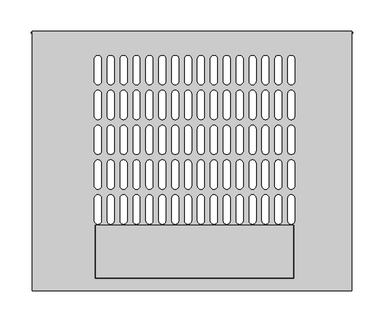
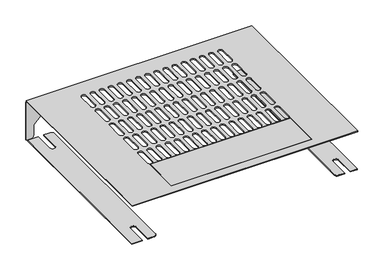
"""IFC4 building model written with IfcOpenShell, lengths in millimetres: proxy geometry, TRF2 - 480V-208Vor 120V_ Step_down_transformer_BIM_Model : TRF2 - 480V-208Vor 120V_ Step_down_transformer_BIM_Model."""

from ifc_helpers import new_model, si_unit, point, frame, frame_2d, origin, origin_with_axes, place, context, project, spatial, polyline, circle_curve, trimmed, segment, composite_curve, outline, extrude, source, transform, mapped, element, save


def electrical_equipment_92dd933f(model_context):
    return source(origin(), model_context, "Body", "SweptSolid", [
        extrude(outline(polyline([(254.8, -198.6272785), (-254.8, -198.6272785), (-254.8, 215.1506986), (254.8, 215.1506986), (254.8, -198.6272785)]), holes=[polyline([(162.4150005, -178.550515), (162.4150005, -94.15061), (-154.465488, -94.15061), (-154.465488, -178.550515), (162.4150005, -178.550515)]), composite_curve([segment(polyline([(-155.818178, -51.220315), (-155.818178, -86.932715)]), True, "CONTINUOUS"), segment(trimmed(circle_curve(frame_2d((-150.268278, -86.932715)), 5.5499), [point((-155.818178, -86.932715))], [point((-144.718378, -86.932715))], True, "CARTESIAN"), True, "CONTINUOUS"), segment(polyline([(-144.718378, -86.932715), (-144.718378, -51.220315)]), True, "CONTINUOUS"), segment(trimmed(circle_curve(frame_2d((-150.268278, -51.220315)), 5.5499), [point((-144.718378, -51.220315))], [point((-155.818178, -51.220315))], True, "CARTESIAN"), True, "CONTINUOUS")], self_intersect=False), composite_curve([segment(polyline([(-155.818178, 4.342185), (-155.818178, -31.370215)]), True, "CONTINUOUS"), segment(trimmed(circle_curve(frame_2d((-150.268278, -31.370215)), 5.5499), [point((-155.818178, -31.370215))], [point((-144.718378, -31.370215))], True, "CARTESIAN"), True, "CONTINUOUS"), segment(polyline([(-144.718378, -31.370215), (-144.718378, 4.342185)]), True, "CONTINUOUS"), segment(trimmed(circle_curve(frame_2d((-150.268278, 4.342185)), 5.5499), [point((-144.718378, 4.342185))], [point((-155.818178, 4.342185))], True, "CARTESIAN"), True, "CONTINUOUS")], self_intersect=False), composite_curve([segment(polyline([(-155.818178, 59.904685), (-155.818178, 24.192285)]), True, "CONTINUOUS"), segment(trimmed(circle_curve(frame_2d((-150.268278, 24.192285)), 5.5499), [point((-155.818178, 24.192285))], [point((-144.718378, 24.192285))], True, "CARTESIAN"), True, "CONTINUOUS"), segment(polyline([(-144.718378, 24.192285), (-144.718378, 59.904685)]), True, "CONTINUOUS"), segment(trimmed(circle_curve(frame_2d((-150.268278, 59.904685)), 5.5499), [point((-144.718378, 59.904685))], [point((-155.818178, 59.904685))], True, "CARTESIAN"), True, "CONTINUOUS")], self_intersect=False), composite_curve([segment(polyline([(-155.818178, 115.467185), (-155.818178, 79.754785)]), True, "CONTINUOUS"), segment(trimmed(circle_curve(frame_2d((-150.268278, 79.754785)), 5.5499), [point((-155.818178, 79.754785))], [point((-144.718378, 79.754785))], True, "CARTESIAN"), True, "CONTINUOUS"), segment(polyline([(-144.718378, 79.754785), (-144.718378, 115.467185)]), True, "CONTINUOUS"), segment(trimmed(circle_curve(frame_2d((-150.268278, 115.467185)), 5.5499), [point((-144.718378, 115.467185))], [point((-155.818178, 115.467185))], True, "CARTESIAN"), True, "CONTINUOUS")], self_intersect=False), composite_curve([segment(polyline([(-155.818178, 171.029685), (-155.818178, 135.317285)]), True, "CONTINUOUS"), segment(trimmed(circle_curve(frame_2d((-150.268278, 135.317285)), 5.5499), [point((-155.818178, 135.317285))], [point((-144.718378, 135.317285))], True, "CARTESIAN"), True, "CONTINUOUS"), segment(polyline([(-144.718378, 135.317285), (-144.718378, 171.029685)]), True, "CONTINUOUS"), segment(trimmed(circle_curve(frame_2d((-150.268278, 171.029685)), 5.5499), [point((-144.718378, 171.029685))], [point((-155.818178, 171.029685))], True, "CARTESIAN"), True, "CONTINUOUS")], self_intersect=False), composite_curve([segment(polyline([(-135.244178, -51.220315), (-135.244178, -86.932715)]), True, "CONTINUOUS"), segment(trimmed(circle_curve(frame_2d((-129.694278, -86.932715)), 5.5499), [point((-135.244178, -86.932715))], [point((-124.144378, -86.932715))], True, "CARTESIAN"), True, "CONTINUOUS"), segment(polyline([(-124.144378, -86.932715), (-124.144378, -51.220315)]), True, "CONTINUOUS"), segment(trimmed(circle_curve(frame_2d((-129.694278, -51.220315)), 5.5499), [point((-124.144378, -51.220315))], [point((-135.244178, -51.220315))], True, "CARTESIAN"), True, "CONTINUOUS")], self_intersect=False), composite_curve([segment(polyline([(-135.244178, 4.342185), (-135.244178, -31.370215)]), True, "CONTINUOUS"), segment(trimmed(circle_curve(frame_2d((-129.694278, -31.370215)), 5.5499), [point((-135.244178, -31.370215))], [point((-124.144378, -31.370215))], True, "CARTESIAN"), True, "CONTINUOUS"), segment(polyline([(-124.144378, -31.370215), (-124.144378, 4.342185)]), True, "CONTINUOUS"), segment(trimmed(circle_curve(frame_2d((-129.694278, 4.342185)), 5.5499), [point((-124.144378, 4.342185))], [point((-135.244178, 4.342185))], True, "CARTESIAN"), True, "CONTINUOUS")], self_intersect=False), composite_curve([segment(polyline([(-135.244178, 59.904685), (-135.244178, 24.192285)]), True, "CONTINUOUS"), segment(trimmed(circle_curve(frame_2d((-129.694278, 24.192285)), 5.5499), [point((-135.244178, 24.192285))], [point((-124.144378, 24.192285))], True, "CARTESIAN"), True, "CONTINUOUS"), segment(polyline([(-124.144378, 24.192285), (-124.144378, 59.904685)]), True, "CONTINUOUS"), segment(trimmed(circle_curve(frame_2d((-129.694278, 59.904685)), 5.5499), [point((-124.144378, 59.904685))], [point((-135.244178, 59.904685))], True, "CARTESIAN"), True, "CONTINUOUS")], self_intersect=False), composite_curve([segment(polyline([(-135.244178, 115.467185), (-135.244178, 79.754785)]), True, "CONTINUOUS"), segment(trimmed(circle_curve(frame_2d((-129.694278, 79.754785)), 5.5499), [point((-135.244178, 79.754785))], [point((-124.144378, 79.754785))], True, "CARTESIAN"), True, "CONTINUOUS"), segment(polyline([(-124.144378, 79.754785), (-124.144378, 115.467185)]), True, "CONTINUOUS"), segment(trimmed(circle_curve(frame_2d((-129.694278, 115.467185)), 5.5499), [point((-124.144378, 115.467185))], [point((-135.244178, 115.467185))], True, "CARTESIAN"), True, "CONTINUOUS")], self_intersect=False), composite_curve([segment(polyline([(-135.244178, 171.029685), (-135.244178, 135.317285)]), True, "CONTINUOUS"), segment(trimmed(circle_curve(frame_2d((-129.694278, 135.317285)), 5.5499), [point((-135.244178, 135.317285))], [point((-124.144378, 135.317285))], True, "CARTESIAN"), True, "CONTINUOUS"), segment(polyline([(-124.144378, 135.317285), (-124.144378, 171.029685)]), True, "CONTINUOUS"), segment(trimmed(circle_curve(frame_2d((-129.694278, 171.029685)), 5.5499), [point((-124.144378, 171.029685))], [point((-135.244178, 171.029685))], True, "CARTESIAN"), True, "CONTINUOUS")], self_intersect=False), composite_curve([segment(polyline([(-114.670178, -51.220315), (-114.670178, -86.932715)]), True, "CONTINUOUS"), segment(trimmed(circle_curve(frame_2d((-109.120278, -86.932715)), 5.5499), [point((-114.670178, -86.932715))], [point((-103.570378, -86.932715))], True, "CARTESIAN"), True, "CONTINUOUS"), segment(polyline([(-103.570378, -86.932715), (-103.570378, -51.220315)]), True, "CONTINUOUS"), segment(trimmed(circle_curve(frame_2d((-109.120278, -51.220315)), 5.5499), [point((-103.570378, -51.220315))], [point((-114.670178, -51.220315))], True, "CARTESIAN"), True, "CONTINUOUS")], self_intersect=False), composite_curve([segment(polyline([(-114.670178, 4.342185), (-114.670178, -31.370215)]), True, "CONTINUOUS"), segment(trimmed(circle_curve(frame_2d((-109.120278, -31.370215)), 5.5499), [point((-114.670178, -31.370215))], [point((-103.570378, -31.370215))], True, "CARTESIAN"), True, "CONTINUOUS"), segment(polyline([(-103.570378, -31.370215), (-103.570378, 4.342185)]), True, "CONTINUOUS"), segment(trimmed(circle_curve(frame_2d((-109.120278, 4.342185)), 5.5499), [point((-103.570378, 4.342185))], [point((-114.670178, 4.342185))], True, "CARTESIAN"), True, "CONTINUOUS")], self_intersect=False), composite_curve([segment(polyline([(-114.670178, 59.904685), (-114.670178, 24.192285)]), True, "CONTINUOUS"), segment(trimmed(circle_curve(frame_2d((-109.120278, 24.192285)), 5.5499), [point((-114.670178, 24.192285))], [point((-103.570378, 24.192285))], True, "CARTESIAN"), True, "CONTINUOUS"), segment(polyline([(-103.570378, 24.192285), (-103.570378, 59.904685)]), True, "CONTINUOUS"), segment(trimmed(circle_curve(frame_2d((-109.120278, 59.904685)), 5.5499), [point((-103.570378, 59.904685))], [point((-114.670178, 59.904685))], True, "CARTESIAN"), True, "CONTINUOUS")], self_intersect=False), composite_curve([segment(polyline([(-114.670178, 115.467185), (-114.670178, 79.754785)]), True, "CONTINUOUS"), segment(trimmed(circle_curve(frame_2d((-109.120278, 79.754785)), 5.5499), [point((-114.670178, 79.754785))], [point((-103.570378, 79.754785))], True, "CARTESIAN"), True, "CONTINUOUS"), segment(polyline([(-103.570378, 79.754785), (-103.570378, 115.467185)]), True, "CONTINUOUS"), segment(trimmed(circle_curve(frame_2d((-109.120278, 115.467185)), 5.5499), [point((-103.570378, 115.467185))], [point((-114.670178, 115.467185))], True, "CARTESIAN"), True, "CONTINUOUS")], self_intersect=False), composite_curve([segment(polyline([(-114.670178, 171.029685), (-114.670178, 135.317285)]), True, "CONTINUOUS"), segment(trimmed(circle_curve(frame_2d((-109.120278, 135.317285)), 5.5499), [point((-114.670178, 135.317285))], [point((-103.570378, 135.317285))], True, "CARTESIAN"), True, "CONTINUOUS"), segment(polyline([(-103.570378, 135.317285), (-103.570378, 171.029685)]), True, "CONTINUOUS"), segment(trimmed(circle_curve(frame_2d((-109.120278, 171.029685)), 5.5499), [point((-103.570378, 171.029685))], [point((-114.670178, 171.029685))], True, "CARTESIAN"), True, "CONTINUOUS")], self_intersect=False), composite_curve([segment(polyline([(-94.096178, -51.220315), (-94.096178, -86.932715)]), True, "CONTINUOUS"), segment(trimmed(circle_curve(frame_2d((-88.546278, -86.932715)), 5.5499), [point((-94.096178, -86.932715))], [point((-82.996378, -86.932715))], True, "CARTESIAN"), True, "CONTINUOUS"), segment(polyline([(-82.996378, -86.932715), (-82.996378, -51.220315)]), True, "CONTINUOUS"), segment(trimmed(circle_curve(frame_2d((-88.546278, -51.220315)), 5.5499), [point((-82.996378, -51.220315))], [point((-94.096178, -51.220315))], True, "CARTESIAN"), True, "CONTINUOUS")], self_intersect=False), composite_curve([segment(polyline([(-94.096178, 4.342185), (-94.096178, -31.370215)]), True, "CONTINUOUS"), segment(trimmed(circle_curve(frame_2d((-88.546278, -31.370215)), 5.5499), [point((-94.096178, -31.370215))], [point((-82.996378, -31.370215))], True, "CARTESIAN"), True, "CONTINUOUS"), segment(polyline([(-82.996378, -31.370215), (-82.996378, 4.342185)]), True, "CONTINUOUS"), segment(trimmed(circle_curve(frame_2d((-88.546278, 4.342185)), 5.5499), [point((-82.996378, 4.342185))], [point((-94.096178, 4.342185))], True, "CARTESIAN"), True, "CONTINUOUS")], self_intersect=False), composite_curve([segment(polyline([(-94.096178, 59.904685), (-94.096178, 24.192285)]), True, "CONTINUOUS"), segment(trimmed(circle_curve(frame_2d((-88.546278, 24.192285)), 5.5499), [point((-94.096178, 24.192285))], [point((-82.996378, 24.192285))], True, "CARTESIAN"), True, "CONTINUOUS"), segment(polyline([(-82.996378, 24.192285), (-82.996378, 59.904685)]), True, "CONTINUOUS"), segment(trimmed(circle_curve(frame_2d((-88.546278, 59.904685)), 5.5499), [point((-82.996378, 59.904685))], [point((-94.096178, 59.904685))], True, "CARTESIAN"), True, "CONTINUOUS")], self_intersect=False), composite_curve([segment(polyline([(-94.096178, 115.467185), (-94.096178, 79.754785)]), True, "CONTINUOUS"), segment(trimmed(circle_curve(frame_2d((-88.546278, 79.754785)), 5.5499), [point((-94.096178, 79.754785))], [point((-82.996378, 79.754785))], True, "CARTESIAN"), True, "CONTINUOUS"), segment(polyline([(-82.996378, 79.754785), (-82.996378, 115.467185)]), True, "CONTINUOUS"), segment(trimmed(circle_curve(frame_2d((-88.546278, 115.467185)), 5.5499), [point((-82.996378, 115.467185))], [point((-94.096178, 115.467185))], True, "CARTESIAN"), True, "CONTINUOUS")], self_intersect=False), composite_curve([segment(polyline([(-94.096178, 171.029685), (-94.096178, 135.317285)]), True, "CONTINUOUS"), segment(trimmed(circle_curve(frame_2d((-88.546278, 135.317285)), 5.5499), [point((-94.096178, 135.317285))], [point((-82.996378, 135.317285))], True, "CARTESIAN"), True, "CONTINUOUS"), segment(polyline([(-82.996378, 135.317285), (-82.996378, 171.029685)]), True, "CONTINUOUS"), segment(trimmed(circle_curve(frame_2d((-88.546278, 171.029685)), 5.5499), [point((-82.996378, 171.029685))], [point((-94.096178, 171.029685))], True, "CARTESIAN"), True, "CONTINUOUS")], self_intersect=False), composite_curve([segment(polyline([(-73.522178, -51.220315), (-73.522178, -86.932715)]), True, "CONTINUOUS"), segment(trimmed(circle_curve(frame_2d((-67.972278, -86.932715)), 5.5499), [point((-73.522178, -86.932715))], [point((-62.422378, -86.932715))], True, "CARTESIAN"), True, "CONTINUOUS"), segment(polyline([(-62.422378, -86.932715), (-62.422378, -51.220315)]), True, "CONTINUOUS"), segment(trimmed(circle_curve(frame_2d((-67.972278, -51.220315)), 5.5499), [point((-62.422378, -51.220315))], [point((-73.522178, -51.220315))], True, "CARTESIAN"), True, "CONTINUOUS")], self_intersect=False), composite_curve([segment(polyline([(-73.522178, 4.342185), (-73.522178, -31.370215)]), True, "CONTINUOUS"), segment(trimmed(circle_curve(frame_2d((-67.972278, -31.370215)), 5.5499), [point((-73.522178, -31.370215))], [point((-62.422378, -31.370215))], True, "CARTESIAN"), True, "CONTINUOUS"), segment(polyline([(-62.422378, -31.370215), (-62.422378, 4.342185)]), True, "CONTINUOUS"), segment(trimmed(circle_curve(frame_2d((-67.972278, 4.342185)), 5.5499), [point((-62.422378, 4.342185))], [point((-73.522178, 4.342185))], True, "CARTESIAN"), True, "CONTINUOUS")], self_intersect=False), composite_curve([segment(polyline([(-73.522178, 59.904685), (-73.522178, 24.192285)]), True, "CONTINUOUS"), segment(trimmed(circle_curve(frame_2d((-67.972278, 24.192285)), 5.5499), [point((-73.522178, 24.192285))], [point((-62.422378, 24.192285))], True, "CARTESIAN"), True, "CONTINUOUS"), segment(polyline([(-62.422378, 24.192285), (-62.422378, 59.904685)]), True, "CONTINUOUS"), segment(trimmed(circle_curve(frame_2d((-67.972278, 59.904685)), 5.5499), [point((-62.422378, 59.904685))], [point((-73.522178, 59.904685))], True, "CARTESIAN"), True, "CONTINUOUS")], self_intersect=False), composite_curve([segment(polyline([(-73.522178, 115.467185), (-73.522178, 79.754785)]), True, "CONTINUOUS"), segment(trimmed(circle_curve(frame_2d((-67.972278, 79.754785)), 5.5499), [point((-73.522178, 79.754785))], [point((-62.422378, 79.754785))], True, "CARTESIAN"), True, "CONTINUOUS"), segment(polyline([(-62.422378, 79.754785), (-62.422378, 115.467185)]), True, "CONTINUOUS"), segment(trimmed(circle_curve(frame_2d((-67.972278, 115.467185)), 5.5499), [point((-62.422378, 115.467185))], [point((-73.522178, 115.467185))], True, "CARTESIAN"), True, "CONTINUOUS")], self_intersect=False), composite_curve([segment(polyline([(-73.522178, 171.029685), (-73.522178, 135.317285)]), True, "CONTINUOUS"), segment(trimmed(circle_curve(frame_2d((-67.972278, 135.317285)), 5.5499), [point((-73.522178, 135.317285))], [point((-62.422378, 135.317285))], True, "CARTESIAN"), True, "CONTINUOUS"), segment(polyline([(-62.422378, 135.317285), (-62.422378, 171.029685)]), True, "CONTINUOUS"), segment(trimmed(circle_curve(frame_2d((-67.972278, 171.029685)), 5.5499), [point((-62.422378, 171.029685))], [point((-73.522178, 171.029685))], True, "CARTESIAN"), True, "CONTINUOUS")], self_intersect=False), composite_curve([segment(polyline([(-52.948178, -51.220315), (-52.948178, -86.932715)]), True, "CONTINUOUS"), segment(trimmed(circle_curve(frame_2d((-47.398278, -86.932715)), 5.5499), [point((-52.948178, -86.932715))], [point((-41.848378, -86.932715))], True, "CARTESIAN"), True, "CONTINUOUS"), segment(polyline([(-41.848378, -86.932715), (-41.848378, -51.220315)]), True, "CONTINUOUS"), segment(trimmed(circle_curve(frame_2d((-47.398278, -51.220315)), 5.5499), [point((-41.848378, -51.220315))], [point((-52.948178, -51.220315))], True, "CARTESIAN"), True, "CONTINUOUS")], self_intersect=False), composite_curve([segment(polyline([(-52.948178, 4.342185), (-52.948178, -31.370215)]), True, "CONTINUOUS"), segment(trimmed(circle_curve(frame_2d((-47.398278, -31.370215)), 5.5499), [point((-52.948178, -31.370215))], [point((-41.848378, -31.370215))], True, "CARTESIAN"), True, "CONTINUOUS"), segment(polyline([(-41.848378, -31.370215), (-41.848378, 4.342185)]), True, "CONTINUOUS"), segment(trimmed(circle_curve(frame_2d((-47.398278, 4.342185)), 5.5499), [point((-41.848378, 4.342185))], [point((-52.948178, 4.342185))], True, "CARTESIAN"), True, "CONTINUOUS")], self_intersect=False), composite_curve([segment(polyline([(-52.948178, 59.904685), (-52.948178, 24.192285)]), True, "CONTINUOUS"), segment(trimmed(circle_curve(frame_2d((-47.398278, 24.192285)), 5.5499), [point((-52.948178, 24.192285))], [point((-41.848378, 24.192285))], True, "CARTESIAN"), True, "CONTINUOUS"), segment(polyline([(-41.848378, 24.192285), (-41.848378, 59.904685)]), True, "CONTINUOUS"), segment(trimmed(circle_curve(frame_2d((-47.398278, 59.904685)), 5.5499), [point((-41.848378, 59.904685))], [point((-52.948178, 59.904685))], True, "CARTESIAN"), True, "CONTINUOUS")], self_intersect=False), composite_curve([segment(polyline([(-52.948178, 115.467185), (-52.948178, 79.754785)]), True, "CONTINUOUS"), segment(trimmed(circle_curve(frame_2d((-47.398278, 79.754785)), 5.5499), [point((-52.948178, 79.754785))], [point((-41.848378, 79.754785))], True, "CARTESIAN"), True, "CONTINUOUS"), segment(polyline([(-41.848378, 79.754785), (-41.848378, 115.467185)]), True, "CONTINUOUS"), segment(trimmed(circle_curve(frame_2d((-47.398278, 115.467185)), 5.5499), [point((-41.848378, 115.467185))], [point((-52.948178, 115.467185))], True, "CARTESIAN"), True, "CONTINUOUS")], self_intersect=False), composite_curve([segment(polyline([(-52.948178, 171.029685), (-52.948178, 135.317285)]), True, "CONTINUOUS"), segment(trimmed(circle_curve(frame_2d((-47.398278, 135.317285)), 5.5499), [point((-52.948178, 135.317285))], [point((-41.848378, 135.317285))], True, "CARTESIAN"), True, "CONTINUOUS"), segment(polyline([(-41.848378, 135.317285), (-41.848378, 171.029685)]), True, "CONTINUOUS"), segment(trimmed(circle_curve(frame_2d((-47.398278, 171.029685)), 5.5499), [point((-41.848378, 171.029685))], [point((-52.948178, 171.029685))], True, "CARTESIAN"), True, "CONTINUOUS")], self_intersect=False), composite_curve([segment(polyline([(-32.374178, -51.220315), (-32.374178, -86.932715)]), True, "CONTINUOUS"), segment(trimmed(circle_curve(frame_2d((-26.824278, -86.932715)), 5.5499), [point((-32.374178, -86.932715))], [point((-21.274378, -86.932715))], True, "CARTESIAN"), True, "CONTINUOUS"), segment(polyline([(-21.274378, -86.932715), (-21.274378, -51.220315)]), True, "CONTINUOUS"), segment(trimmed(circle_curve(frame_2d((-26.824278, -51.220315)), 5.5499), [point((-21.274378, -51.220315))], [point((-32.374178, -51.220315))], True, "CARTESIAN"), True, "CONTINUOUS")], self_intersect=False), composite_curve([segment(polyline([(-32.374178, 4.342185), (-32.374178, -31.370215)]), True, "CONTINUOUS"), segment(trimmed(circle_curve(frame_2d((-26.824278, -31.370215)), 5.5499), [point((-32.374178, -31.370215))], [point((-21.274378, -31.370215))], True, "CARTESIAN"), True, "CONTINUOUS"), segment(polyline([(-21.274378, -31.370215), (-21.274378, 4.342185)]), True, "CONTINUOUS"), segment(trimmed(circle_curve(frame_2d((-26.824278, 4.342185)), 5.5499), [point((-21.274378, 4.342185))], [point((-32.374178, 4.342185))], True, "CARTESIAN"), True, "CONTINUOUS")], self_intersect=False), composite_curve([segment(polyline([(-32.374178, 59.904685), (-32.374178, 24.192285)]), True, "CONTINUOUS"), segment(trimmed(circle_curve(frame_2d((-26.824278, 24.192285)), 5.5499), [point((-32.374178, 24.192285))], [point((-21.274378, 24.192285))], True, "CARTESIAN"), True, "CONTINUOUS"), segment(polyline([(-21.274378, 24.192285), (-21.274378, 59.904685)]), True, "CONTINUOUS"), segment(trimmed(circle_curve(frame_2d((-26.824278, 59.904685)), 5.5499), [point((-21.274378, 59.904685))], [point((-32.374178, 59.904685))], True, "CARTESIAN"), True, "CONTINUOUS")], self_intersect=False), composite_curve([segment(polyline([(-32.374178, 115.467185), (-32.374178, 79.754785)]), True, "CONTINUOUS"), segment(trimmed(circle_curve(frame_2d((-26.824278, 79.754785)), 5.5499), [point((-32.374178, 79.754785))], [point((-21.274378, 79.754785))], True, "CARTESIAN"), True, "CONTINUOUS"), segment(polyline([(-21.274378, 79.754785), (-21.274378, 115.467185)]), True, "CONTINUOUS"), segment(trimmed(circle_curve(frame_2d((-26.824278, 115.467185)), 5.5499), [point((-21.274378, 115.467185))], [point((-32.374178, 115.467185))], True, "CARTESIAN"), True, "CONTINUOUS")], self_intersect=False), composite_curve([segment(polyline([(-32.374178, 171.029685), (-32.374178, 135.317285)]), True, "CONTINUOUS"), segment(trimmed(circle_curve(frame_2d((-26.824278, 135.317285)), 5.5499), [point((-32.374178, 135.317285))], [point((-21.274378, 135.317285))], True, "CARTESIAN"), True, "CONTINUOUS"), segment(polyline([(-21.274378, 135.317285), (-21.274378, 171.029685)]), True, "CONTINUOUS"), segment(trimmed(circle_curve(frame_2d((-26.824278, 171.029685)), 5.5499), [point((-21.274378, 171.029685))], [point((-32.374178, 171.029685))], True, "CARTESIAN"), True, "CONTINUOUS")], self_intersect=False), composite_curve([segment(polyline([(-11.800178, -51.220315), (-11.800178, -86.932715)]), True, "CONTINUOUS"), segment(trimmed(circle_curve(frame_2d((-6.250278, -86.932715)), 5.5499), [point((-11.800178, -86.932715))], [point((-0.700378, -86.932715))], True, "CARTESIAN"), True, "CONTINUOUS"), segment(polyline([(-0.700378, -86.932715), (-0.700378, -51.220315)]), True, "CONTINUOUS"), segment(trimmed(circle_curve(frame_2d((-6.250278, -51.220315)), 5.5499), [point((-0.700378, -51.220315))], [point((-11.800178, -51.220315))], True, "CARTESIAN"), True, "CONTINUOUS")], self_intersect=False), composite_curve([segment(polyline([(-11.800178, 4.342185), (-11.800178, -31.370215)]), True, "CONTINUOUS"), segment(trimmed(circle_curve(frame_2d((-6.250278, -31.370215)), 5.5499), [point((-11.800178, -31.370215))], [point((-0.700378, -31.370215))], True, "CARTESIAN"), True, "CONTINUOUS"), segment(polyline([(-0.700378, -31.370215), (-0.700378, 4.342185)]), True, "CONTINUOUS"), segment(trimmed(circle_curve(frame_2d((-6.250278, 4.342185)), 5.5499), [point((-0.700378, 4.342185))], [point((-11.800178, 4.342185))], True, "CARTESIAN"), True, "CONTINUOUS")], self_intersect=False), composite_curve([segment(polyline([(-11.800178, 59.904685), (-11.800178, 24.192285)]), True, "CONTINUOUS"), segment(trimmed(circle_curve(frame_2d((-6.250278, 24.192285)), 5.5499), [point((-11.800178, 24.192285))], [point((-0.700378, 24.192285))], True, "CARTESIAN"), True, "CONTINUOUS"), segment(polyline([(-0.700378, 24.192285), (-0.700378, 59.904685)]), True, "CONTINUOUS"), segment(trimmed(circle_curve(frame_2d((-6.250278, 59.904685)), 5.5499), [point((-0.700378, 59.904685))], [point((-11.800178, 59.904685))], True, "CARTESIAN"), True, "CONTINUOUS")], self_intersect=False), composite_curve([segment(polyline([(-11.800178, 115.467185), (-11.800178, 79.754785)]), True, "CONTINUOUS"), segment(trimmed(circle_curve(frame_2d((-6.250278, 79.754785)), 5.5499), [point((-11.800178, 79.754785))], [point((-0.700378, 79.754785))], True, "CARTESIAN"), True, "CONTINUOUS"), segment(polyline([(-0.700378, 79.754785), (-0.700378, 115.467185)]), True, "CONTINUOUS"), segment(trimmed(circle_curve(frame_2d((-6.250278, 115.467185)), 5.5499), [point((-0.700378, 115.467185))], [point((-11.800178, 115.467185))], True, "CARTESIAN"), True, "CONTINUOUS")], self_intersect=False), composite_curve([segment(polyline([(-11.800178, 171.029685), (-11.800178, 135.317285)]), True, "CONTINUOUS"), segment(trimmed(circle_curve(frame_2d((-6.250278, 135.317285)), 5.5499), [point((-11.800178, 135.317285))], [point((-0.700378, 135.317285))], True, "CARTESIAN"), True, "CONTINUOUS"), segment(polyline([(-0.700378, 135.317285), (-0.700378, 171.029685)]), True, "CONTINUOUS"), segment(trimmed(circle_curve(frame_2d((-6.250278, 171.029685)), 5.5499), [point((-0.700378, 171.029685))], [point((-11.800178, 171.029685))], True, "CARTESIAN"), True, "CONTINUOUS")], self_intersect=False), composite_curve([segment(polyline([(8.773822, -51.220315), (8.773822, -86.932715)]), True, "CONTINUOUS"), segment(trimmed(circle_curve(frame_2d((14.323722, -86.932715)), 5.5499), [point((8.773822, -86.932715))], [point((19.873622, -86.932715))], True, "CARTESIAN"), True, "CONTINUOUS"), segment(polyline([(19.873622, -86.932715), (19.873622, -51.220315)]), True, "CONTINUOUS"), segment(trimmed(circle_curve(frame_2d((14.323722, -51.220315)), 5.5499), [point((19.873622, -51.220315))], [point((8.773822, -51.220315))], True, "CARTESIAN"), True, "CONTINUOUS")], self_intersect=False), composite_curve([segment(polyline([(8.773822, 4.342185), (8.773822, -31.370215)]), True, "CONTINUOUS"), segment(trimmed(circle_curve(frame_2d((14.323722, -31.370215)), 5.5499), [point((8.773822, -31.370215))], [point((19.873622, -31.370215))], True, "CARTESIAN"), True, "CONTINUOUS"), segment(polyline([(19.873622, -31.370215), (19.873622, 4.342185)]), True, "CONTINUOUS"), segment(trimmed(circle_curve(frame_2d((14.323722, 4.342185)), 5.5499), [point((19.873622, 4.342185))], [point((8.773822, 4.342185))], True, "CARTESIAN"), True, "CONTINUOUS")], self_intersect=False), composite_curve([segment(polyline([(8.773822, 59.904685), (8.773822, 24.192285)]), True, "CONTINUOUS"), segment(trimmed(circle_curve(frame_2d((14.323722, 24.192285)), 5.5499), [point((8.773822, 24.192285))], [point((19.873622, 24.192285))], True, "CARTESIAN"), True, "CONTINUOUS"), segment(polyline([(19.873622, 24.192285), (19.873622, 59.904685)]), True, "CONTINUOUS"), segment(trimmed(circle_curve(frame_2d((14.323722, 59.904685)), 5.5499), [point((19.873622, 59.904685))], [point((8.773822, 59.904685))], True, "CARTESIAN"), True, "CONTINUOUS")], self_intersect=False), composite_curve([segment(polyline([(8.773822, 115.467185), (8.773822, 79.754785)]), True, "CONTINUOUS"), segment(trimmed(circle_curve(frame_2d((14.323722, 79.754785)), 5.5499), [point((8.773822, 79.754785))], [point((19.873622, 79.754785))], True, "CARTESIAN"), True, "CONTINUOUS"), segment(polyline([(19.873622, 79.754785), (19.873622, 115.467185)]), True, "CONTINUOUS"), segment(trimmed(circle_curve(frame_2d((14.323722, 115.467185)), 5.5499), [point((19.873622, 115.467185))], [point((8.773822, 115.467185))], True, "CARTESIAN"), True, "CONTINUOUS")], self_intersect=False), composite_curve([segment(polyline([(8.773822, 171.029685), (8.773822, 135.317285)]), True, "CONTINUOUS"), segment(trimmed(circle_curve(frame_2d((14.323722, 135.317285)), 5.5499), [point((8.773822, 135.317285))], [point((19.873622, 135.317285))], True, "CARTESIAN"), True, "CONTINUOUS"), segment(polyline([(19.873622, 135.317285), (19.873622, 171.029685)]), True, "CONTINUOUS"), segment(trimmed(circle_curve(frame_2d((14.323722, 171.029685)), 5.5499), [point((19.873622, 171.029685))], [point((8.773822, 171.029685))], True, "CARTESIAN"), True, "CONTINUOUS")], self_intersect=False), composite_curve([segment(polyline([(29.347822, -51.220315), (29.347822, -86.932715)]), True, "CONTINUOUS"), segment(trimmed(circle_curve(frame_2d((34.897722, -86.932715)), 5.5499), [point((29.347822, -86.932715))], [point((40.447622, -86.932715))], True, "CARTESIAN"), True, "CONTINUOUS"), segment(polyline([(40.447622, -86.932715), (40.447622, -51.220315)]), True, "CONTINUOUS"), segment(trimmed(circle_curve(frame_2d((34.897722, -51.220315)), 5.5499), [point((40.447622, -51.220315))], [point((29.347822, -51.220315))], True, "CARTESIAN"), True, "CONTINUOUS")], self_intersect=False), composite_curve([segment(polyline([(29.347822, 4.342185), (29.347822, -31.370215)]), True, "CONTINUOUS"), segment(trimmed(circle_curve(frame_2d((34.897722, -31.370215)), 5.5499), [point((29.347822, -31.370215))], [point((40.447622, -31.370215))], True, "CARTESIAN"), True, "CONTINUOUS"), segment(polyline([(40.447622, -31.370215), (40.447622, 4.342185)]), True, "CONTINUOUS"), segment(trimmed(circle_curve(frame_2d((34.897722, 4.342185)), 5.5499), [point((40.447622, 4.342185))], [point((29.347822, 4.342185))], True, "CARTESIAN"), True, "CONTINUOUS")], self_intersect=False), composite_curve([segment(polyline([(29.347822, 59.904685), (29.347822, 24.192285)]), True, "CONTINUOUS"), segment(trimmed(circle_curve(frame_2d((34.897722, 24.192285)), 5.5499), [point((29.347822, 24.192285))], [point((40.447622, 24.192285))], True, "CARTESIAN"), True, "CONTINUOUS"), segment(polyline([(40.447622, 24.192285), (40.447622, 59.904685)]), True, "CONTINUOUS"), segment(trimmed(circle_curve(frame_2d((34.897722, 59.904685)), 5.5499), [point((40.447622, 59.904685))], [point((29.347822, 59.904685))], True, "CARTESIAN"), True, "CONTINUOUS")], self_intersect=False), composite_curve([segment(polyline([(29.347822, 115.467185), (29.347822, 79.754785)]), True, "CONTINUOUS"), segment(trimmed(circle_curve(frame_2d((34.897722, 79.754785)), 5.5499), [point((29.347822, 79.754785))], [point((40.447622, 79.754785))], True, "CARTESIAN"), True, "CONTINUOUS"), segment(polyline([(40.447622, 79.754785), (40.447622, 115.467185)]), True, "CONTINUOUS"), segment(trimmed(circle_curve(frame_2d((34.897722, 115.467185)), 5.5499), [point((40.447622, 115.467185))], [point((29.347822, 115.467185))], True, "CARTESIAN"), True, "CONTINUOUS")], self_intersect=False), composite_curve([segment(polyline([(29.347822, 171.029685), (29.347822, 135.317285)]), True, "CONTINUOUS"), segment(trimmed(circle_curve(frame_2d((34.897722, 135.317285)), 5.5499), [point((29.347822, 135.317285))], [point((40.447622, 135.317285))], True, "CARTESIAN"), True, "CONTINUOUS"), segment(polyline([(40.447622, 135.317285), (40.447622, 171.029685)]), True, "CONTINUOUS"), segment(trimmed(circle_curve(frame_2d((34.897722, 171.029685)), 5.5499), [point((40.447622, 171.029685))], [point((29.347822, 171.029685))], True, "CARTESIAN"), True, "CONTINUOUS")], self_intersect=False), composite_curve([segment(polyline([(49.921822, -51.220315), (49.921822, -86.932715)]), True, "CONTINUOUS"), segment(trimmed(circle_curve(frame_2d((55.471722, -86.932715)), 5.5499), [point((49.921822, -86.932715))], [point((61.021622, -86.932715))], True, "CARTESIAN"), True, "CONTINUOUS"), segment(polyline([(61.021622, -86.932715), (61.021622, -51.220315)]), True, "CONTINUOUS"), segment(trimmed(circle_curve(frame_2d((55.471722, -51.220315)), 5.5499), [point((61.021622, -51.220315))], [point((49.921822, -51.220315))], True, "CARTESIAN"), True, "CONTINUOUS")], self_intersect=False), composite_curve([segment(polyline([(49.921822, 4.342185), (49.921822, -31.370215)]), True, "CONTINUOUS"), segment(trimmed(circle_curve(frame_2d((55.471722, -31.370215)), 5.5499), [point((49.921822, -31.370215))], [point((61.021622, -31.370215))], True, "CARTESIAN"), True, "CONTINUOUS"), segment(polyline([(61.021622, -31.370215), (61.021622, 4.342185)]), True, "CONTINUOUS"), segment(trimmed(circle_curve(frame_2d((55.471722, 4.342185)), 5.5499), [point((61.021622, 4.342185))], [point((49.921822, 4.342185))], True, "CARTESIAN"), True, "CONTINUOUS")], self_intersect=False), composite_curve([segment(polyline([(49.921822, 59.904685), (49.921822, 24.192285)]), True, "CONTINUOUS"), segment(trimmed(circle_curve(frame_2d((55.471722, 24.192285)), 5.5499), [point((49.921822, 24.192285))], [point((61.021622, 24.192285))], True, "CARTESIAN"), True, "CONTINUOUS"), segment(polyline([(61.021622, 24.192285), (61.021622, 59.904685)]), True, "CONTINUOUS"), segment(trimmed(circle_curve(frame_2d((55.471722, 59.904685)), 5.5499), [point((61.021622, 59.904685))], [point((49.921822, 59.904685))], True, "CARTESIAN"), True, "CONTINUOUS")], self_intersect=False), composite_curve([segment(polyline([(49.921822, 115.467185), (49.921822, 79.754785)]), True, "CONTINUOUS"), segment(trimmed(circle_curve(frame_2d((55.471722, 79.754785)), 5.5499), [point((49.921822, 79.754785))], [point((61.021622, 79.754785))], True, "CARTESIAN"), True, "CONTINUOUS"), segment(polyline([(61.021622, 79.754785), (61.021622, 115.467185)]), True, "CONTINUOUS"), segment(trimmed(circle_curve(frame_2d((55.471722, 115.467185)), 5.5499), [point((61.021622, 115.467185))], [point((49.921822, 115.467185))], True, "CARTESIAN"), True, "CONTINUOUS")], self_intersect=False), composite_curve([segment(polyline([(49.921822, 171.029685), (49.921822, 135.317285)]), True, "CONTINUOUS"), segment(trimmed(circle_curve(frame_2d((55.471722, 135.317285)), 5.5499), [point((49.921822, 135.317285))], [point((61.021622, 135.317285))], True, "CARTESIAN"), True, "CONTINUOUS"), segment(polyline([(61.021622, 135.317285), (61.021622, 171.029685)]), True, "CONTINUOUS"), segment(trimmed(circle_curve(frame_2d((55.471722, 171.029685)), 5.5499), [point((61.021622, 171.029685))], [point((49.921822, 171.029685))], True, "CARTESIAN"), True, "CONTINUOUS")], self_intersect=False), composite_curve([segment(polyline([(70.495822, -51.220315), (70.495822, -86.932715)]), True, "CONTINUOUS"), segment(trimmed(circle_curve(frame_2d((76.045722, -86.932715)), 5.5499), [point((70.495822, -86.932715))], [point((81.595622, -86.932715))], True, "CARTESIAN"), True, "CONTINUOUS"), segment(polyline([(81.595622, -86.932715), (81.595622, -51.220315)]), True, "CONTINUOUS"), segment(trimmed(circle_curve(frame_2d((76.045722, -51.220315)), 5.5499), [point((81.595622, -51.220315))], [point((70.495822, -51.220315))], True, "CARTESIAN"), True, "CONTINUOUS")], self_intersect=False), composite_curve([segment(polyline([(70.495822, 4.342185), (70.495822, -31.370215)]), True, "CONTINUOUS"), segment(trimmed(circle_curve(frame_2d((76.045722, -31.370215)), 5.5499), [point((70.495822, -31.370215))], [point((81.595622, -31.370215))], True, "CARTESIAN"), True, "CONTINUOUS"), segment(polyline([(81.595622, -31.370215), (81.595622, 4.342185)]), True, "CONTINUOUS"), segment(trimmed(circle_curve(frame_2d((76.045722, 4.342185)), 5.5499), [point((81.595622, 4.342185))], [point((70.495822, 4.342185))], True, "CARTESIAN"), True, "CONTINUOUS")], self_intersect=False), composite_curve([segment(polyline([(70.495822, 59.904685), (70.495822, 24.192285)]), True, "CONTINUOUS"), segment(trimmed(circle_curve(frame_2d((76.045722, 24.192285)), 5.5499), [point((70.495822, 24.192285))], [point((81.595622, 24.192285))], True, "CARTESIAN"), True, "CONTINUOUS"), segment(polyline([(81.595622, 24.192285), (81.595622, 59.904685)]), True, "CONTINUOUS"), segment(trimmed(circle_curve(frame_2d((76.045722, 59.904685)), 5.5499), [point((81.595622, 59.904685))], [point((70.495822, 59.904685))], True, "CARTESIAN"), True, "CONTINUOUS")], self_intersect=False), composite_curve([segment(polyline([(70.495822, 115.467185), (70.495822, 79.754785)]), True, "CONTINUOUS"), segment(trimmed(circle_curve(frame_2d((76.045722, 79.754785)), 5.5499), [point((70.495822, 79.754785))], [point((81.595622, 79.754785))], True, "CARTESIAN"), True, "CONTINUOUS"), segment(polyline([(81.595622, 79.754785), (81.595622, 115.467185)]), True, "CONTINUOUS"), segment(trimmed(circle_curve(frame_2d((76.045722, 115.467185)), 5.5499), [point((81.595622, 115.467185))], [point((70.495822, 115.467185))], True, "CARTESIAN"), True, "CONTINUOUS")], self_intersect=False), composite_curve([segment(polyline([(70.495822, 171.029685), (70.495822, 135.317285)]), True, "CONTINUOUS"), segment(trimmed(circle_curve(frame_2d((76.045722, 135.317285)), 5.5499), [point((70.495822, 135.317285))], [point((81.595622, 135.317285))], True, "CARTESIAN"), True, "CONTINUOUS"), segment(polyline([(81.595622, 135.317285), (81.595622, 171.029685)]), True, "CONTINUOUS"), segment(trimmed(circle_curve(frame_2d((76.045722, 171.029685)), 5.5499), [point((81.595622, 171.029685))], [point((70.495822, 171.029685))], True, "CARTESIAN"), True, "CONTINUOUS")], self_intersect=False), composite_curve([segment(polyline([(91.069822, -51.220315), (91.069822, -86.932715)]), True, "CONTINUOUS"), segment(trimmed(circle_curve(frame_2d((96.619722, -86.932715)), 5.5499), [point((91.069822, -86.932715))], [point((102.169622, -86.932715))], True, "CARTESIAN"), True, "CONTINUOUS"), segment(polyline([(102.169622, -86.932715), (102.169622, -51.220315)]), True, "CONTINUOUS"), segment(trimmed(circle_curve(frame_2d((96.619722, -51.220315)), 5.5499), [point((102.169622, -51.220315))], [point((91.069822, -51.220315))], True, "CARTESIAN"), True, "CONTINUOUS")], self_intersect=False), composite_curve([segment(polyline([(91.069822, 4.342185), (91.069822, -31.370215)]), True, "CONTINUOUS"), segment(trimmed(circle_curve(frame_2d((96.619722, -31.370215)), 5.5499), [point((91.069822, -31.370215))], [point((102.169622, -31.370215))], True, "CARTESIAN"), True, "CONTINUOUS"), segment(polyline([(102.169622, -31.370215), (102.169622, 4.342185)]), True, "CONTINUOUS"), segment(trimmed(circle_curve(frame_2d((96.619722, 4.342185)), 5.5499), [point((102.169622, 4.342185))], [point((91.069822, 4.342185))], True, "CARTESIAN"), True, "CONTINUOUS")], self_intersect=False), composite_curve([segment(polyline([(91.069822, 59.904685), (91.069822, 24.192285)]), True, "CONTINUOUS"), segment(trimmed(circle_curve(frame_2d((96.619722, 24.192285)), 5.5499), [point((91.069822, 24.192285))], [point((102.169622, 24.192285))], True, "CARTESIAN"), True, "CONTINUOUS"), segment(polyline([(102.169622, 24.192285), (102.169622, 59.904685)]), True, "CONTINUOUS"), segment(trimmed(circle_curve(frame_2d((96.619722, 59.904685)), 5.5499), [point((102.169622, 59.904685))], [point((91.069822, 59.904685))], True, "CARTESIAN"), True, "CONTINUOUS")], self_intersect=False), composite_curve([segment(polyline([(91.069822, 115.467185), (91.069822, 79.754785)]), True, "CONTINUOUS"), segment(trimmed(circle_curve(frame_2d((96.619722, 79.754785)), 5.5499), [point((91.069822, 79.754785))], [point((102.169622, 79.754785))], True, "CARTESIAN"), True, "CONTINUOUS"), segment(polyline([(102.169622, 79.754785), (102.169622, 115.467185)]), True, "CONTINUOUS"), segment(trimmed(circle_curve(frame_2d((96.619722, 115.467185)), 5.5499), [point((102.169622, 115.467185))], [point((91.069822, 115.467185))], True, "CARTESIAN"), True, "CONTINUOUS")], self_intersect=False), composite_curve([segment(polyline([(91.069822, 171.029685), (91.069822, 135.317285)]), True, "CONTINUOUS"), segment(trimmed(circle_curve(frame_2d((96.619722, 135.317285)), 5.5499), [point((91.069822, 135.317285))], [point((102.169622, 135.317285))], True, "CARTESIAN"), True, "CONTINUOUS"), segment(polyline([(102.169622, 135.317285), (102.169622, 171.029685)]), True, "CONTINUOUS"), segment(trimmed(circle_curve(frame_2d((96.619722, 171.029685)), 5.5499), [point((102.169622, 171.029685))], [point((91.069822, 171.029685))], True, "CARTESIAN"), True, "CONTINUOUS")], self_intersect=False), composite_curve([segment(polyline([(111.643822, -51.220315), (111.643822, -86.932715)]), True, "CONTINUOUS"), segment(trimmed(circle_curve(frame_2d((117.193722, -86.932715)), 5.5499), [point((111.643822, -86.932715))], [point((122.743622, -86.932715))], True, "CARTESIAN"), True, "CONTINUOUS"), segment(polyline([(122.743622, -86.932715), (122.743622, -51.220315)]), True, "CONTINUOUS"), segment(trimmed(circle_curve(frame_2d((117.193722, -51.220315)), 5.5499), [point((122.743622, -51.220315))], [point((111.643822, -51.220315))], True, "CARTESIAN"), True, "CONTINUOUS")], self_intersect=False), composite_curve([segment(polyline([(111.643822, 4.342185), (111.643822, -31.370215)]), True, "CONTINUOUS"), segment(trimmed(circle_curve(frame_2d((117.193722, -31.370215)), 5.5499), [point((111.643822, -31.370215))], [point((122.743622, -31.370215))], True, "CARTESIAN"), True, "CONTINUOUS"), segment(polyline([(122.743622, -31.370215), (122.743622, 4.342185)]), True, "CONTINUOUS"), segment(trimmed(circle_curve(frame_2d((117.193722, 4.342185)), 5.5499), [point((122.743622, 4.342185))], [point((111.643822, 4.342185))], True, "CARTESIAN"), True, "CONTINUOUS")], self_intersect=False), composite_curve([segment(polyline([(111.643822, 59.904685), (111.643822, 24.192285)]), True, "CONTINUOUS"), segment(trimmed(circle_curve(frame_2d((117.193722, 24.192285)), 5.5499), [point((111.643822, 24.192285))], [point((122.743622, 24.192285))], True, "CARTESIAN"), True, "CONTINUOUS"), segment(polyline([(122.743622, 24.192285), (122.743622, 59.904685)]), True, "CONTINUOUS"), segment(trimmed(circle_curve(frame_2d((117.193722, 59.904685)), 5.5499), [point((122.743622, 59.904685))], [point((111.643822, 59.904685))], True, "CARTESIAN"), True, "CONTINUOUS")], self_intersect=False), composite_curve([segment(polyline([(111.643822, 115.467185), (111.643822, 79.754785)]), True, "CONTINUOUS"), segment(trimmed(circle_curve(frame_2d((117.193722, 79.754785)), 5.5499), [point((111.643822, 79.754785))], [point((122.743622, 79.754785))], True, "CARTESIAN"), True, "CONTINUOUS"), segment(polyline([(122.743622, 79.754785), (122.743622, 115.467185)]), True, "CONTINUOUS"), segment(trimmed(circle_curve(frame_2d((117.193722, 115.467185)), 5.5499), [point((122.743622, 115.467185))], [point((111.643822, 115.467185))], True, "CARTESIAN"), True, "CONTINUOUS")], self_intersect=False), composite_curve([segment(polyline([(111.643822, 171.029685), (111.643822, 135.317285)]), True, "CONTINUOUS"), segment(trimmed(circle_curve(frame_2d((117.193722, 135.317285)), 5.5499), [point((111.643822, 135.317285))], [point((122.743622, 135.317285))], True, "CARTESIAN"), True, "CONTINUOUS"), segment(polyline([(122.743622, 135.317285), (122.743622, 171.029685)]), True, "CONTINUOUS"), segment(trimmed(circle_curve(frame_2d((117.193722, 171.029685)), 5.5499), [point((122.743622, 171.029685))], [point((111.643822, 171.029685))], True, "CARTESIAN"), True, "CONTINUOUS")], self_intersect=False), composite_curve([segment(polyline([(132.217822, -51.220315), (132.217822, -86.932715)]), True, "CONTINUOUS"), segment(trimmed(circle_curve(frame_2d((137.767722, -86.932715)), 5.5499), [point((132.217822, -86.932715))], [point((143.317622, -86.932715))], True, "CARTESIAN"), True, "CONTINUOUS"), segment(polyline([(143.317622, -86.932715), (143.317622, -51.220315)]), True, "CONTINUOUS"), segment(trimmed(circle_curve(frame_2d((137.767722, -51.220315)), 5.5499), [point((143.317622, -51.220315))], [point((132.217822, -51.220315))], True, "CARTESIAN"), True, "CONTINUOUS")], self_intersect=False), composite_curve([segment(polyline([(132.217822, 4.342185), (132.217822, -31.370215)]), True, "CONTINUOUS"), segment(trimmed(circle_curve(frame_2d((137.767722, -31.370215)), 5.5499), [point((132.217822, -31.370215))], [point((143.317622, -31.370215))], True, "CARTESIAN"), True, "CONTINUOUS"), segment(polyline([(143.317622, -31.370215), (143.317622, 4.342185)]), True, "CONTINUOUS"), segment(trimmed(circle_curve(frame_2d((137.767722, 4.342185)), 5.5499), [point((143.317622, 4.342185))], [point((132.217822, 4.342185))], True, "CARTESIAN"), True, "CONTINUOUS")], self_intersect=False), composite_curve([segment(polyline([(132.217822, 59.904685), (132.217822, 24.192285)]), True, "CONTINUOUS"), segment(trimmed(circle_curve(frame_2d((137.767722, 24.192285)), 5.5499), [point((132.217822, 24.192285))], [point((143.317622, 24.192285))], True, "CARTESIAN"), True, "CONTINUOUS"), segment(polyline([(143.317622, 24.192285), (143.317622, 59.904685)]), True, "CONTINUOUS"), segment(trimmed(circle_curve(frame_2d((137.767722, 59.904685)), 5.5499), [point((143.317622, 59.904685))], [point((132.217822, 59.904685))], True, "CARTESIAN"), True, "CONTINUOUS")], self_intersect=False), composite_curve([segment(polyline([(132.217822, 115.467185), (132.217822, 79.754785)]), True, "CONTINUOUS"), segment(trimmed(circle_curve(frame_2d((137.767722, 79.754785)), 5.5499), [point((132.217822, 79.754785))], [point((143.317622, 79.754785))], True, "CARTESIAN"), True, "CONTINUOUS"), segment(polyline([(143.317622, 79.754785), (143.317622, 115.467185)]), True, "CONTINUOUS"), segment(trimmed(circle_curve(frame_2d((137.767722, 115.467185)), 5.5499), [point((143.317622, 115.467185))], [point((132.217822, 115.467185))], True, "CARTESIAN"), True, "CONTINUOUS")], self_intersect=False), composite_curve([segment(polyline([(132.217822, 171.029685), (132.217822, 135.317285)]), True, "CONTINUOUS"), segment(trimmed(circle_curve(frame_2d((137.767722, 135.317285)), 5.5499), [point((132.217822, 135.317285))], [point((143.317622, 135.317285))], True, "CARTESIAN"), True, "CONTINUOUS"), segment(polyline([(143.317622, 135.317285), (143.317622, 171.029685)]), True, "CONTINUOUS"), segment(trimmed(circle_curve(frame_2d((137.767722, 171.029685)), 5.5499), [point((143.317622, 171.029685))], [point((132.217822, 171.029685))], True, "CARTESIAN"), True, "CONTINUOUS")], self_intersect=False), composite_curve([segment(polyline([(152.791822, -51.220315), (152.791822, -86.932715)]), True, "CONTINUOUS"), segment(trimmed(circle_curve(frame_2d((158.341722, -86.932715)), 5.5499), [point((152.791822, -86.932715))], [point((163.891622, -86.932715))], True, "CARTESIAN"), True, "CONTINUOUS"), segment(polyline([(163.891622, -86.932715), (163.891622, -51.220315)]), True, "CONTINUOUS"), segment(trimmed(circle_curve(frame_2d((158.341722, -51.220315)), 5.5499), [point((163.891622, -51.220315))], [point((152.791822, -51.220315))], True, "CARTESIAN"), True, "CONTINUOUS")], self_intersect=False), composite_curve([segment(polyline([(152.791822, 4.342185), (152.791822, -31.370215)]), True, "CONTINUOUS"), segment(trimmed(circle_curve(frame_2d((158.341722, -31.370215)), 5.5499), [point((152.791822, -31.370215))], [point((163.891622, -31.370215))], True, "CARTESIAN"), True, "CONTINUOUS"), segment(polyline([(163.891622, -31.370215), (163.891622, 4.342185)]), True, "CONTINUOUS"), segment(trimmed(circle_curve(frame_2d((158.341722, 4.342185)), 5.5499), [point((163.891622, 4.342185))], [point((152.791822, 4.342185))], True, "CARTESIAN"), True, "CONTINUOUS")], self_intersect=False), composite_curve([segment(polyline([(152.791822, 59.904685), (152.791822, 24.192285)]), True, "CONTINUOUS"), segment(trimmed(circle_curve(frame_2d((158.341722, 24.192285)), 5.5499), [point((152.791822, 24.192285))], [point((163.891622, 24.192285))], True, "CARTESIAN"), True, "CONTINUOUS"), segment(polyline([(163.891622, 24.192285), (163.891622, 59.904685)]), True, "CONTINUOUS"), segment(trimmed(circle_curve(frame_2d((158.341722, 59.904685)), 5.5499), [point((163.891622, 59.904685))], [point((152.791822, 59.904685))], True, "CARTESIAN"), True, "CONTINUOUS")], self_intersect=False), composite_curve([segment(polyline([(152.791822, 115.467185), (152.791822, 79.754785)]), True, "CONTINUOUS"), segment(trimmed(circle_curve(frame_2d((158.341722, 79.754785)), 5.5499), [point((152.791822, 79.754785))], [point((163.891622, 79.754785))], True, "CARTESIAN"), True, "CONTINUOUS"), segment(polyline([(163.891622, 79.754785), (163.891622, 115.467185)]), True, "CONTINUOUS"), segment(trimmed(circle_curve(frame_2d((158.341722, 115.467185)), 5.5499), [point((163.891622, 115.467185))], [point((152.791822, 115.467185))], True, "CARTESIAN"), True, "CONTINUOUS")], self_intersect=False), composite_curve([segment(polyline([(152.791822, 171.029685), (152.791822, 135.317285)]), True, "CONTINUOUS"), segment(trimmed(circle_curve(frame_2d((158.341722, 135.317285)), 5.5499), [point((152.791822, 135.317285))], [point((163.891622, 135.317285))], True, "CARTESIAN"), True, "CONTINUOUS"), segment(polyline([(163.891622, 135.317285), (163.891622, 171.029685)]), True, "CONTINUOUS"), segment(trimmed(circle_curve(frame_2d((158.341722, 171.029685)), 5.5499), [point((163.891622, 171.029685))], [point((152.791822, 171.029685))], True, "CARTESIAN"), True, "CONTINUOUS")], self_intersect=False)]), frame((0.0, 0.0, 91.7316252), z_axis=(0.0, 0.0, 1.0), x_axis=(1.0, 0.0, 0.0)), (0.0, 0.0, 1.0), 2.0),
        extrude(outline(polyline([(161.9150005, -178.050515), (-153.965488, -178.050515), (-153.965488, -94.65061), (161.9150005, -94.65061), (161.9150005, -178.050515)])), frame((0.0, 0.0, 91.7316252), z_axis=(0.0, 0.0, 1.0), x_axis=(1.0, 0.0, 0.0)), (0.0, 0.0, 1.0), 2.0),
        extrude(outline(composite_curve([segment(polyline([(254.8, -196.7858242), (239.1397042, -196.7858242), (239.1397042, -152.261515)]), True, "CONTINUOUS"), segment(trimmed(circle_curve(frame_2d((232.7897042, -152.261515)), 6.35), [point((239.1397042, -152.261515))], [point((226.4397042, -152.261515))], True, "CARTESIAN"), True, "CONTINUOUS"), segment(polyline([(226.4397042, -152.261515), (226.4397042, -196.7858242), (212.8990311, -196.7858242)]), True, "CONTINUOUS"), segment(trimmed(circle_curve(frame_2d((212.8990311, -190.361515)), 6.4243092), [point((212.8990311, -196.7858242))], [point((206.474722, -190.361515))], False, "CARTESIAN"), True, "CONTINUOUS"), segment(polyline([(206.474722, -190.361515), (206.474722, 203.338485)]), True, "CONTINUOUS"), segment(trimmed(circle_curve(frame_2d((212.824722, 203.338485)), 6.35), [point((206.474722, 203.338485))], [point((212.824722, 209.688485))], False, "CARTESIAN"), True, "CONTINUOUS"), segment(polyline([(212.824722, 209.688485), (226.413722, 209.688485), (226.413722, 165.238485)]), True, "CONTINUOUS"), segment(trimmed(circle_curve(frame_2d((232.763722, 165.238485)), 6.35), [point((226.413722, 165.238485))], [point((239.113722, 165.238485))], True, "CARTESIAN"), True, "CONTINUOUS"), segment(polyline([(239.113722, 165.238485), (239.113722, 209.688485), (254.8, 209.688485), (254.8, -196.7858242)]), True, "CONTINUOUS")], self_intersect=False)), origin_with_axes(), (0.0, 0.0, 1.0), 2.0),
        extrude(outline(composite_curve([segment(polyline([(-254.8, -196.7858242), (-254.8, 209.688485), (-230.913278, 209.688485), (-230.913278, 165.238485)]), True, "CONTINUOUS"), segment(trimmed(circle_curve(frame_2d((-224.563278, 165.238485)), 6.35), [point((-230.913278, 165.238485))], [point((-218.213278, 165.238485))], True, "CARTESIAN"), True, "CONTINUOUS"), segment(polyline([(-218.213278, 165.238485), (-218.213278, 209.688485), (-203.735278, 209.688485)]), True, "CONTINUOUS"), segment(trimmed(circle_curve(frame_2d((-203.735278, 203.338485)), 6.35), [point((-203.735278, 209.688485))], [point((-197.385278, 203.338485))], False, "CARTESIAN"), True, "CONTINUOUS"), segment(polyline([(-197.385278, 203.338485), (-197.385278, -190.361515)]), True, "CONTINUOUS"), segment(trimmed(circle_curve(frame_2d((-203.8095872, -190.361515)), 6.4243092), [point((-197.385278, -190.361515))], [point((-203.8095872, -196.7858242))], False, "CARTESIAN"), True, "CONTINUOUS"), segment(polyline([(-203.8095872, -196.7858242), (-218.213278, -196.7858242), (-218.213278, -152.261515)]), True, "CONTINUOUS"), segment(trimmed(circle_curve(frame_2d((-224.563278, -152.261515)), 6.35), [point((-218.213278, -152.261515))], [point((-230.913278, -152.261515))], True, "CARTESIAN"), True, "CONTINUOUS"), segment(polyline([(-230.913278, -152.261515), (-230.913278, -196.7858242), (-254.8, -196.7858242)]), True, "CONTINUOUS")], self_intersect=False)), origin_with_axes(), (0.0, 0.0, 1.0), 2.0),
        extrude(outline(composite_curve([segment(polyline([(49.1612252, -224.409), (90.534604, -224.409), (90.534604, -256.4157385), (1.5362252, -256.4157385), (1.5362252, -246.159)]), True, "CONTINUOUS"), segment(trimmed(circle_curve(frame_2d((7.4112252, -246.159)), 5.875), [point((1.5362252, -246.159))], [point((7.4112252, -240.284))], False, "CARTESIAN"), True, "CONTINUOUS"), segment(polyline([(7.4112252, -240.284), (33.2862252, -240.284), (49.1612252, -224.409)]), True, "CONTINUOUS")], self_intersect=False)), frame((0.0, 211.9637215, 0.0), z_axis=(0.0, 1.0, 0.0), x_axis=(0.0, 0.0, 1.0)), (0.0, 0.0, 1.0), 2.0362785),
        extrude(outline(composite_curve([segment(polyline([(49.1612252, 224.409), (33.2862252, 240.284), (7.4112252, 240.284)]), True, "CONTINUOUS"), segment(trimmed(circle_curve(frame_2d((7.4112252, 246.159)), 5.875), [point((7.4112252, 240.284))], [point((1.5362252, 246.159))], False, "CARTESIAN"), True, "CONTINUOUS"), segment(polyline([(1.5362252, 246.159), (1.5362252, 256.4157385), (90.534604, 256.4157385), (90.534604, 224.409), (49.1612252, 224.409)]), True, "CONTINUOUS")], self_intersect=False)), frame((0.0, 211.9637215, 0.0), z_axis=(0.0, 1.0, 0.0), x_axis=(0.0, 0.0, 1.0)), (0.0, 0.0, 1.0), 2.0362785),
    ])


if __name__ == "__main__":
    model = new_model("IFC4")
    model_context = context("Model", 3, world=origin())
    ifc_project = project(units=[si_unit("LENGTHUNIT", "METRE", prefix="MILLI")], contexts=[model_context])
    site = spatial("IfcSite", under=ifc_project)
    building = spatial("IfcBuilding", under=site)
    placement = place(None, origin())
    electrical_equipment_shape = electrical_equipment_92dd933f(model_context)
    element("IfcBuildingElementProxy", 1, Name="TRF2 - 480V-208Vor 120V_ Step_down_transformer_BIM_Model : TRF2 - 480V-208Vor 120V_ Step_down_transformer_BIM_Model", ObjectType="TRF2 - 480V-208Vor 120V_ Step_down_transformer_BIM_Model : TRF2 - 480V-208Vor 120V_ Step_down_transformer_BIM_Model", at=placement, inside=building, context=model_context, shape_type="MappedRepresentation", body=[
        mapped(electrical_equipment_shape, transform((0.0, 0.0, 0.0), x_axis=(1.0, 0.0, 0.0), y_axis=(0.0, 1.0, 0.0), z_axis=(0.0, 0.0, 1.0))),
    ])
    save(model, "model.ifc")
